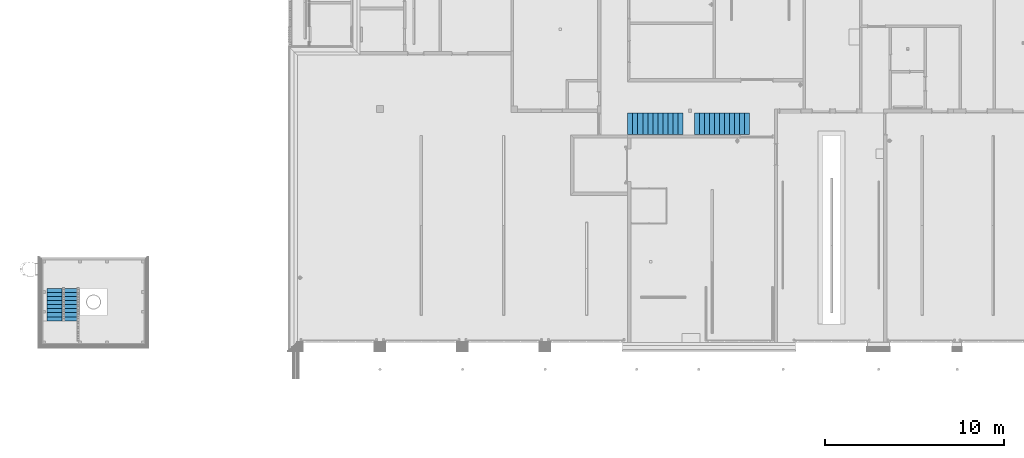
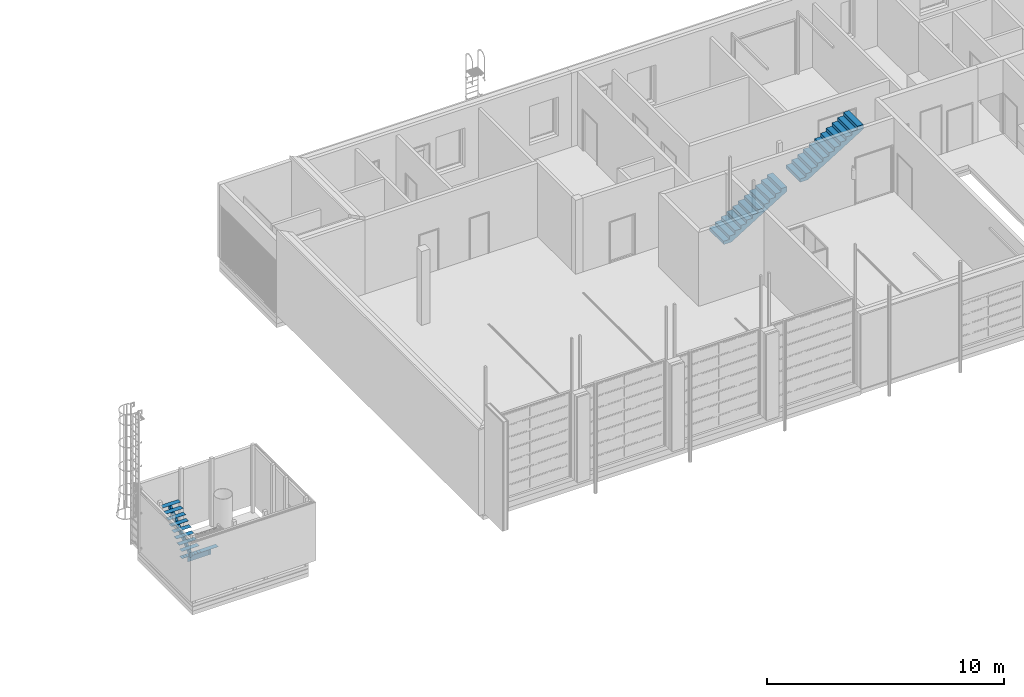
# One storey, part 36 of 112: 4 members, 4 elements without a shape of their own.
"""IFC2X3 building model written with IfcOpenShell, lengths in millimetres."""

import ifcopenshell
import ifcopenshell.guid

model = None  # the IFC model being written
_history = None  # IfcOwnerHistory: only IFC2X3 demands one
_inside = {}  # id of a spatial element -> (the spatial element, [elements in it])
_under = {}  # id of a project, library or spatial element -> (it, [spatial elements below it])
_declared = {}  # id of a project -> (the project, [libraries it declares])
_typed = {}  # id of a type object -> (the type object, [elements of that type])
_made_of = {}  # id of a material, layer set ... -> (it, [elements and type objects made of it])


def new_model(schema):
    """Start an empty IFC model of exactly this schema.

    Asked for "IFC4X3", IfcOpenShell would pick the latest addendum, in which some entities
    have other attributes; the version numbers below select the first issue.
    IFC2X3 requires an IfcOwnerHistory on every rooted entity: one is made here for all.
    """
    global model, _history
    if schema == "IFC4X3":
        model = ifcopenshell.file(schema_version=(4, 3, 0, 0))
    else:
        model = ifcopenshell.file(schema=schema)
    _inside.clear()
    _under.clear()
    _declared.clear()
    _typed.clear()
    _made_of.clear()
    _history = None
    if model.schema == "IFC2X3":
        org = make("IfcOrganization", Name="unknown")
        user = make(
            "IfcPersonAndOrganization",
            ThePerson=make("IfcPerson", FamilyName="unknown"),
            TheOrganization=org,
        )
        app = make(
            "IfcApplication",
            ApplicationDeveloper=org,
            Version="unknown",
            ApplicationFullName="unknown",
            ApplicationIdentifier="unknown",
        )
        _history = make(
            "IfcOwnerHistory",
            OwningUser=user,
            OwningApplication=app,
            ChangeAction="ADDED",
            CreationDate=0,
        )
    return model


def make(cls, **values):
    """One entity of the class cls with the attributes given. An attribute that is None is left unset."""
    return model.create_entity(
        cls, **{name: value for name, value in values.items() if value is not None}
    )


def entity(cls, *values):
    """Any entity or typed value of the class cls, its attributes in the order of the schema. None: left unset."""
    e = model.create_entity(cls)
    for i, value in enumerate(values):
        if value is not None:
            e[i] = value
    return e


def rooted(cls, **values):
    """An entity with a GlobalId (a new one), such as an element, a storey or a relation."""
    return make(cls, GlobalId=ifcopenshell.guid.new(), OwnerHistory=_history, **values)


def si_unit(unit_type, name, prefix=None):
    """IfcSIUnit, for example si_unit("LENGTHUNIT", "METRE", prefix="MILLI")."""
    return make("IfcSIUnit", UnitType=unit_type, Prefix=prefix, Name=name)


def converted_unit(unit_type, name, factor, base, dimensions=None, offset=None):
    """IfcConversionBasedUnit, such as the inch: factor (a typed value) times the base unit."""
    return make(
        "IfcConversionBasedUnit"
        if offset is None
        else "IfcConversionBasedUnitWithOffset",
        ConversionOffset=offset,
        Dimensions=None
        if dimensions is None
        else entity("IfcDimensionalExponents", *dimensions),
        UnitType=unit_type,
        Name=name,
        ConversionFactor=make(
            "IfcMeasureWithUnit", ValueComponent=factor, UnitComponent=base
        ),
    )


def derived_unit(unit_type, elements):
    """IfcDerivedUnit: a product of units, each with its exponent."""
    return make(
        "IfcDerivedUnit",
        Elements=[
            make("IfcDerivedUnitElement", Unit=unit, Exponent=power)
            for unit, power in elements
        ],
        UnitType=unit_type,
    )


def money_unit(currency):
    """IfcMonetaryUnit."""
    return make("IfcMonetaryUnit", Currency=currency)


def assignment(units):
    """IfcUnitAssignment: the units of a project."""
    return None if units is None else make("IfcUnitAssignment", Units=units)


def point(xyz):
    """IfcCartesianPoint."""
    return None if xyz is None else make("IfcCartesianPoint", Coordinates=xyz)


def direction(xyz):
    """IfcDirection."""
    return None if xyz is None else make("IfcDirection", DirectionRatios=xyz)


def frame(location, z_axis=None, x_axis=None):
    """IfcAxis2Placement3D, a coordinate frame: its origin and axes. An axis left out is left unset."""
    return make(
        "IfcAxis2Placement3D",
        Location=point(location),
        Axis=direction(z_axis),
        RefDirection=direction(x_axis),
    )


def origin_with_axes():
    """The frame at (0, 0, 0) with the z axis (0, 0, 1) and the x axis (1, 0, 0) written out."""
    return frame((0.0, 0.0, 0.0), z_axis=(0.0, 0.0, 1.0), x_axis=(1.0, 0.0, 0.0))


def place(relative_to, where):
    """IfcLocalPlacement: puts the frame where relative to a parent placement (None: the world)."""
    return make(
        "IfcLocalPlacement", PlacementRelTo=relative_to, RelativePlacement=where
    )


def context(
    kind, dimensions, precision=None, world=None, true_north=None, identifier=None
):
    """IfcGeometricRepresentationContext, for example the 3D "Model" context."""
    return make(
        "IfcGeometricRepresentationContext",
        ContextIdentifier=identifier,
        ContextType=kind,
        CoordinateSpaceDimension=dimensions,
        Precision=precision,
        WorldCoordinateSystem=world,
        TrueNorth=true_north,
    )


def subcontext(parent, identifier, kind, view, scale=None):
    """IfcGeometricRepresentationSubContext, for example "Body" below "Model"."""
    return make(
        "IfcGeometricRepresentationSubContext",
        ContextIdentifier=identifier,
        ContextType=kind,
        ParentContext=parent,
        TargetScale=scale,
        TargetView=view,
    )


def project(units=None, contexts=None):
    """IfcProject with its units and contexts."""
    return rooted(
        "IfcProject",
        Name="project",
        RepresentationContexts=contexts,
        UnitsInContext=assignment(units),
    )


def spatial(cls, under=None, at=None, **own):
    """A site, building, storey or space (cls), placed at a placement, below another one or the project."""
    s = rooted(cls, ObjectPlacement=at, **own)
    if under is not None:
        _under.setdefault(under.id(), (under, []))[1].append(s)
    return s


def faces_of(points, faces, orient=None, outer=None):
    """IfcFace entities. A face is a list of loops; a loop is a list of indices into points, from 0.

    orient and outer hold one flag for each loop. By default every Orientation is true, the
    first loop of a face is its IfcFaceOuterBound and the others are IfcFaceBound.
    """
    made = []
    for i, loops in enumerate(faces):
        bounds = []
        for j, loop in enumerate(loops):
            is_outer = j == 0 if outer is None else outer[i][j]
            bounds.append(
                make(
                    "IfcFaceOuterBound" if is_outer else "IfcFaceBound",
                    Bound=make("IfcPolyLoop", Polygon=[points[k] for k in loop]),
                    Orientation=True if orient is None else orient[i][j],
                )
            )
        made.append(make("IfcFace", Bounds=bounds))
    return made


def faceted_brep(points, faces, orient=None, outer=None, voids=None):
    """IfcFacetedBrep: a solid bounded by flat faces; with voids (closed shells), ...WithVoids."""
    shared = [point(p) for p in points]
    hull = make("IfcClosedShell", CfsFaces=faces_of(shared, faces, orient, outer))
    if voids is None:
        return make("IfcFacetedBrep", Outer=hull)
    return make(
        "IfcFacetedBrepWithVoids",
        Outer=hull,
        Voids=[
            make(cls, CfsFaces=faces_of(shared, fs, o, b)) for cls, fs, o, b in voids
        ],
    )


def shape(context_of_items, identifier, shape_type, items):
    """IfcShapeRepresentation: the items that make up one representation, for example the "Body"."""
    return make(
        "IfcShapeRepresentation",
        ContextOfItems=context_of_items,
        RepresentationIdentifier=identifier,
        RepresentationType=shape_type,
        Items=items,
    )


def material(Name=None, Category=None):
    """IfcMaterial."""
    return make("IfcMaterial", Name=Name, Category=Category)


def made_of(thing, what):
    """Note that an element or type object is made of a material, layer set ...; save() writes the relation."""
    if what is not None:
        _made_of.setdefault(what.id(), (what, []))[1].append(thing)
    return thing


def type_object(cls, material=None, **own):
    """A type object (cls), such as IfcWallType, which elements share."""
    return made_of(rooted(cls, **own), material)


def element(
    cls,
    number,
    at=None,
    inside=None,
    cuts=None,
    type_object=None,
    material=None,
    context=None,
    identifier="Body",
    shape_type=None,
    held_by="IfcProductDefinitionShape",
    body=None,
    shapes=None,
    **own,
):
    """One element of the class cls, such as IfcWall. Its Tag is "e" and its number.

    at: its placement. inside: the storey or other place that contains it. cuts: it is an
    opening in that element (IfcRelVoidsElement). A single representation is given by context,
    identifier, shape_type and body (its items); several are given by shapes. held_by: the class
    of the entity that holds the representations. save() writes the other relations.
    """
    e = rooted(cls, Tag="e%d" % number, ObjectPlacement=at, **own)
    if body is not None:
        shapes = [shape(context, identifier, shape_type, body)]
    if shapes is not None:
        e.Representation = make(held_by, Representations=shapes)
    if inside is not None:
        _inside.setdefault(inside.id(), (inside, []))[1].append(e)
    if cuts is not None:
        rooted(
            "IfcRelVoidsElement", RelatingBuildingElement=cuts, RelatedOpeningElement=e
        )
    if type_object is not None:
        _typed.setdefault(type_object.id(), (type_object, []))[1].append(e)
    return made_of(e, material)


def aggregate(whole, parts):
    """IfcRelAggregates: a whole, such as a stair, and the parts it consists of."""
    return rooted("IfcRelAggregates", RelatingObject=whole, RelatedObjects=parts)


def save(model, path):
    """Write the relations noted so far, then the file.

    IfcRelAggregates (storeys below a building ...), IfcRelContainedInSpatialStructure (elements
    in a storey), IfcRelDefinesByType, IfcRelAssociatesMaterial and IfcRelDeclares: one each for
    every whole, place, type object, material and project.
    """
    for whole, parts in _under.values():
        aggregate(whole, parts)
    for where, things in _inside.values():
        rooted(
            "IfcRelContainedInSpatialStructure",
            RelatedElements=things,
            RelatingStructure=where,
        )
    for kind, things in _typed.values():
        rooted("IfcRelDefinesByType", RelatedObjects=things, RelatingType=kind)
    for what, things in _made_of.values():
        rooted("IfcRelAssociatesMaterial", RelatedObjects=things, RelatingMaterial=what)
    for by, libraries in _declared.values():
        rooted("IfcRelDeclares", RelatingContext=by, RelatedDefinitions=libraries)
    model.write(path)


model = new_model("IFC2X3")

# Units and contexts
model_context = context("Model", 3, precision=0.01, world=origin_with_axes(), true_north=direction((0.0, 1.0)))
body_context = subcontext(model_context, "Body", "Model", "MODEL_VIEW")
ifc_project = project(units=[si_unit("LENGTHUNIT", "METRE", prefix="MILLI"), si_unit("AREAUNIT", "SQUARE_METRE"), si_unit("VOLUMEUNIT", "CUBIC_METRE"), converted_unit("PLANEANGLEUNIT", "DEGREE", entity("IfcPlaneAngleMeasure", 0.0174532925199), si_unit("PLANEANGLEUNIT", "RADIAN"), dimensions=[0, 0, 0, 0, 0, 0, 0]), si_unit("SOLIDANGLEUNIT", "STERADIAN"), money_unit("EUR"), converted_unit("TIMEUNIT", "Year", entity("IfcTimeMeasure", 31556926.0), si_unit("TIMEUNIT", "SECOND"), dimensions=[0, 0, 1, 0, 0, 0, 0]), si_unit("MASSUNIT", "GRAM", prefix="KILO"), si_unit("THERMODYNAMICTEMPERATUREUNIT", "DEGREE_CELSIUS"), si_unit("LUMINOUSINTENSITYUNIT", "LUMEN"), si_unit("ENERGYUNIT", "JOULE", prefix="MEGA"), derived_unit("THERMALCONDUCTANCEUNIT", [(si_unit("POWERUNIT", "WATT"), 1), (si_unit("LENGTHUNIT", "METRE"), -1), (si_unit("THERMODYNAMICTEMPERATUREUNIT", "KELVIN"), -1)]), derived_unit("SPECIFICHEATCAPACITYUNIT", [(si_unit("ENERGYUNIT", "JOULE"), 1), (si_unit("MASSUNIT", "GRAM", prefix="KILO"), -1), (si_unit("THERMODYNAMICTEMPERATUREUNIT", "KELVIN"), -1)]), derived_unit("MASSDENSITYUNIT", [(si_unit("MASSUNIT", "GRAM", prefix="KILO"), 1), (si_unit("VOLUMEUNIT", "CUBIC_METRE"), -1)])], contexts=[model_context])

# Site, building, storey
site_placement = place(None, origin_with_axes())
site = spatial("IfcSite", under=ifc_project, at=site_placement, Name="Politse- ja Piirivalveameti ning Päästeameti ühishoone", CompositionType="ELEMENT")
building_placement = place(site_placement, origin_with_axes())
building = spatial("IfcBuilding", under=site, at=building_placement, Name="Politse- ja Piirivalveameti ning Päästeameti ühishoone", CompositionType="ELEMENT")
storey_placement = place(building_placement, origin_with_axes())
storey = spatial("IfcBuildingStorey", under=building, at=storey_placement, Name="Esimene korrus", CompositionType="ELEMENT", Elevation=0.0)

# Stair, member
stair_1_placement = place(storey_placement, frame((18400.0260184, 11585.0198611, 0.0), z_axis=(0.0, 0.0, 1.0), x_axis=(1.0, 0.0, 0.0)))
stair_1 = element("IfcStair", 1, at=stair_1_placement, inside=storey, Name="TREPP 1", ShapeType="NOTDEFINED")
ifc_material_1 = material(Name="KON-04_Betoon - Konstuktsioon")
member_type = type_object("IfcMemberType", Name="IfcMember", PredefinedType="USERDEFINED")
member_1_placement = place(stair_1_placement, origin_with_axes())
member_1 = element("IfcMember", 2, at=member_1_placement, type_object=member_type, material=ifc_material_1, Name="TT KONSTRUKTSIOON - 002", ObjectType="Stair Structure", context=body_context, shape_type="Brep", body=[
    faceted_brep([(3080.0, 0.0, 1900.0), (3080.0, 0.0, 1665.00682734), (3080.0, 1200.0, 1665.00682734), (3080.0, 1200.0, 1900.0), (2893.33333333, 0.0, 1549.85531219), (2986.66666667, 0.0, 1607.43106977), (2800.0, 0.0, 1900.0), (2800.0, 0.0, 1727.27272727), (2520.0, 0.0, 1727.27272727), (2520.0, 0.0, 1554.54545455), (2240.0, 0.0, 1554.54545455), (2240.0, 0.0, 1381.81818182), (1960.0, 0.0, 1381.81818182), (1960.0, 0.0, 1209.09090909), (1680.0, 0.0, 1209.09090909), (1680.0, 0.0, 1036.36363636), (1400.0, 0.0, 1036.36363636), (1400.0, 0.0, 863.636363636), (1120.0, 0.0, 863.636363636), (1120.0, 0.0, 690.909090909), (840.0, 0.0, 690.909090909), (840.0, 0.0, 518.181818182), (560.0, 0.0, 518.181818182), (560.0, 0.0, 345.454545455), (280.0, 0.0, 345.454545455), (280.0, 0.0, 172.727272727), (0.0, 0.0, 172.727272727), (0.0, 0.0, 0.0), (380.93630094, 0.0, 0.0), (466.666666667, 0.0, 52.8856152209), (560.0, 0.0, 110.461372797), (653.333333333, 0.0, 168.037130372), (746.666666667, 0.0, 225.612887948), (840.0, 0.0, 283.188645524), (933.333333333, 0.0, 340.7644031), (1026.66666667, 0.0, 398.340160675), (1120.0, 0.0, 455.915918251), (1213.33333333, 0.0, 513.491675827), (1306.66666667, 0.0, 571.067433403), (1400.0, 0.0, 628.643190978), (1493.33333333, 0.0, 686.218948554), (1586.66666667, 0.0, 743.79470613), (1680.0, 0.0, 801.370463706), (1773.33333333, 0.0, 858.946221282), (1866.66666667, 0.0, 916.521978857), (1960.0, 0.0, 974.097736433), (2053.33333333, 0.0, 1031.67349401), (2146.66666667, 0.0, 1089.24925158), (2240.0, 0.0, 1146.82500916), (2333.33333333, 0.0, 1204.40076674), (2426.66666667, 0.0, 1261.97652431), (2520.0, 0.0, 1319.55228189), (2613.33333333, 0.0, 1377.12803946), (2706.66666667, 0.0, 1434.70379704), (2800.0, 0.0, 1492.27955461), (2986.66666667, 1200.0, 1607.43106977), (380.93630094, 1200.0, 0.0), (0.0, 1200.0, 0.0), (0.0, 1200.0, 172.727272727), (280.0, 1200.0, 172.727272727), (280.0, 1200.0, 345.454545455), (560.0, 1200.0, 345.454545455), (560.0, 1200.0, 518.181818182), (840.0, 1200.0, 518.181818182), (840.0, 1200.0, 690.909090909), (1120.0, 1200.0, 690.909090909), (1120.0, 1200.0, 863.636363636), (1400.0, 1200.0, 863.636363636), (1400.0, 1200.0, 1036.36363636), (1680.0, 1200.0, 1036.36363636), (1680.0, 1200.0, 1209.09090909), (1960.0, 1200.0, 1209.09090909), (1960.0, 1200.0, 1381.81818182), (2240.0, 1200.0, 1381.81818182), (2240.0, 1200.0, 1554.54545455), (2520.0, 1200.0, 1554.54545455), (2520.0, 1200.0, 1727.27272727), (2800.0, 1200.0, 1727.27272727), (2800.0, 1200.0, 1900.0), (2893.33333333, 1200.0, 1549.85531219), (2800.0, 1200.0, 1492.27955461), (2706.66666667, 1200.0, 1434.70379704), (2613.33333333, 1200.0, 1377.12803946), (2520.0, 1200.0, 1319.55228189), (2426.66666667, 1200.0, 1261.97652431), (2333.33333333, 1200.0, 1204.40076674), (2240.0, 1200.0, 1146.82500916), (2146.66666667, 1200.0, 1089.24925158), (2053.33333333, 1200.0, 1031.67349401), (1960.0, 1200.0, 974.097736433), (1866.66666667, 1200.0, 916.521978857), (1773.33333333, 1200.0, 858.946221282), (1680.0, 1200.0, 801.370463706), (1586.66666667, 1200.0, 743.79470613), (1493.33333333, 1200.0, 686.218948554), (1400.0, 1200.0, 628.643190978), (1306.66666667, 1200.0, 571.067433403), (1213.33333333, 1200.0, 513.491675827), (1120.0, 1200.0, 455.915918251), (1026.66666667, 1200.0, 398.340160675), (933.333333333, 1200.0, 340.7644031), (840.0, 1200.0, 283.188645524), (746.666666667, 1200.0, 225.612887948), (653.333333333, 1200.0, 168.037130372), (560.0, 1200.0, 110.461372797), (466.666666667, 1200.0, 52.8856152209)], [[[0, 1, 2, 3]], [[4, 5, 1, 0, 6, 7, 8, 9, 10, 11, 12, 13, 14, 15, 16, 17, 18, 19, 20, 21, 22, 23, 24, 25, 26, 27, 28, 29, 30, 31, 32, 33, 34, 35, 36, 37, 38, 39, 40, 41, 42, 43, 44, 45, 46, 47, 48, 49, 50, 51, 52, 53, 54]], [[55, 2, 1, 5]], [[56, 57, 58, 59, 60, 61, 62, 63, 64, 65, 66, 67, 68, 69, 70, 71, 72, 73, 74, 75, 76, 77, 78, 3, 2, 55, 79, 80, 81, 82, 83, 84, 85, 86, 87, 88, 89, 90, 91, 92, 93, 94, 95, 96, 97, 98, 99, 100, 101, 102, 103, 104, 105]], [[6, 0, 3, 78]], [[4, 79, 55, 5]], [[6, 78, 77, 7]], [[76, 8, 7, 77]], [[8, 76, 75, 9]], [[74, 10, 9, 75]], [[10, 74, 73, 11]], [[72, 12, 11, 73]], [[12, 72, 71, 13]], [[70, 14, 13, 71]], [[14, 70, 69, 15]], [[68, 16, 15, 69]], [[16, 68, 67, 17]], [[66, 18, 17, 67]], [[18, 66, 65, 19]], [[64, 20, 19, 65]], [[20, 64, 63, 21]], [[62, 22, 21, 63]], [[22, 62, 61, 23]], [[60, 24, 23, 61]], [[24, 60, 59, 25]], [[58, 26, 25, 59]], [[57, 27, 26, 58]], [[27, 57, 56, 28]], [[28, 56, 105, 29]], [[29, 105, 104, 30]], [[30, 104, 103, 31]], [[31, 103, 102, 32]], [[32, 102, 101, 33]], [[33, 101, 100, 34]], [[34, 100, 99, 35]], [[35, 99, 98, 36]], [[36, 98, 97, 37]], [[37, 97, 96, 38]], [[38, 96, 95, 39]], [[39, 95, 94, 40]], [[40, 94, 93, 41]], [[41, 93, 92, 42]], [[42, 92, 91, 43]], [[43, 91, 90, 44]], [[44, 90, 89, 45]], [[45, 89, 88, 46]], [[46, 88, 87, 47]], [[47, 87, 86, 48]], [[48, 86, 85, 49]], [[49, 85, 84, 50]], [[50, 84, 83, 51]], [[51, 83, 82, 52]], [[52, 82, 81, 53]], [[53, 81, 80, 54]], [[54, 80, 79, 4]]]),
])
aggregate(stair_1, [member_1])

stair_2_placement = place(storey_placement, frame((22400.0260184, 11585.0198611, 1900.0), z_axis=(0.0, 0.0, 1.0), x_axis=(1.0, 0.0, 0.0)))
stair_2 = element("IfcStair", 3, at=stair_2_placement, inside=storey, Name="TREPP 1", ShapeType="NOTDEFINED")
member_2_placement = place(stair_2_placement, origin_with_axes())
member_2 = element("IfcMember", 4, at=member_2_placement, type_object=member_type, material=ifc_material_1, Name="TT KONSTRUKTSIOON - 002", ObjectType="Stair Structure", context=body_context, shape_type="Brep", body=[
    faceted_brep([(2800.0, 0.0, 1900.0), (2800.0, 0.0, 1665.00682734), (2800.0, 1200.0, 1665.00682734), (2800.0, 1200.0, 1900.0), (2613.33333333, 0.0, 1549.85531219), (2706.66666667, 0.0, 1607.43106977), (2520.0, 0.0, 1900.0), (2520.0, 0.0, 1727.27272727), (2240.0, 0.0, 1727.27272727), (2240.0, 0.0, 1554.54545455), (1960.0, 0.0, 1554.54545455), (1960.0, 0.0, 1381.81818182), (1680.0, 0.0, 1381.81818182), (1680.0, 0.0, 1209.09090909), (1400.0, 0.0, 1209.09090909), (1400.0, 0.0, 1036.36363636), (1120.0, 0.0, 1036.36363636), (1120.0, 0.0, 863.636363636), (840.0, 0.0, 863.636363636), (840.0, 0.0, 690.909090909), (560.0, 0.0, 690.909090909), (560.0, 0.0, 518.181818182), (280.0, 0.0, 518.181818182), (280.0, 0.0, 345.454545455), (0.0, 0.0, 345.454545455), (0.0, 0.0, 172.727272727), (-280.0, 0.0, 172.727272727), (-280.0, 0.0, 0.0), (100.93630094, 0.0, 0.0), (186.666666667, 0.0, 52.8856152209), (280.0, 0.0, 110.461372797), (373.333333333, 0.0, 168.037130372), (466.666666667, 0.0, 225.612887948), (560.0, 0.0, 283.188645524), (653.333333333, 0.0, 340.7644031), (746.666666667, 0.0, 398.340160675), (840.0, 0.0, 455.915918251), (933.333333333, 0.0, 513.491675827), (1026.66666667, 0.0, 571.067433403), (1120.0, 0.0, 628.643190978), (1213.33333333, 0.0, 686.218948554), (1306.66666667, 0.0, 743.79470613), (1400.0, 0.0, 801.370463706), (1493.33333333, 0.0, 858.946221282), (1586.66666667, 0.0, 916.521978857), (1680.0, 0.0, 974.097736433), (1773.33333333, 0.0, 1031.67349401), (1866.66666667, 0.0, 1089.24925158), (1960.0, 0.0, 1146.82500916), (2053.33333333, 0.0, 1204.40076674), (2146.66666667, 0.0, 1261.97652431), (2240.0, 0.0, 1319.55228189), (2333.33333333, 0.0, 1377.12803946), (2426.66666667, 0.0, 1434.70379704), (2520.0, 0.0, 1492.27955461), (2706.66666667, 1200.0, 1607.43106977), (100.93630094, 1200.0, 0.0), (-280.0, 1200.0, 0.0), (-280.0, 1200.0, 172.727272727), (0.0, 1200.0, 172.727272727), (0.0, 1200.0, 345.454545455), (280.0, 1200.0, 345.454545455), (280.0, 1200.0, 518.181818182), (560.0, 1200.0, 518.181818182), (560.0, 1200.0, 690.909090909), (840.0, 1200.0, 690.909090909), (840.0, 1200.0, 863.636363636), (1120.0, 1200.0, 863.636363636), (1120.0, 1200.0, 1036.36363636), (1400.0, 1200.0, 1036.36363636), (1400.0, 1200.0, 1209.09090909), (1680.0, 1200.0, 1209.09090909), (1680.0, 1200.0, 1381.81818182), (1960.0, 1200.0, 1381.81818182), (1960.0, 1200.0, 1554.54545455), (2240.0, 1200.0, 1554.54545455), (2240.0, 1200.0, 1727.27272727), (2520.0, 1200.0, 1727.27272727), (2520.0, 1200.0, 1900.0), (2613.33333333, 1200.0, 1549.85531219), (2520.0, 1200.0, 1492.27955461), (2426.66666667, 1200.0, 1434.70379704), (2333.33333333, 1200.0, 1377.12803946), (2240.0, 1200.0, 1319.55228189), (2146.66666667, 1200.0, 1261.97652431), (2053.33333333, 1200.0, 1204.40076674), (1960.0, 1200.0, 1146.82500916), (1866.66666667, 1200.0, 1089.24925158), (1773.33333333, 1200.0, 1031.67349401), (1680.0, 1200.0, 974.097736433), (1586.66666667, 1200.0, 916.521978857), (1493.33333333, 1200.0, 858.946221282), (1400.0, 1200.0, 801.370463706), (1306.66666667, 1200.0, 743.79470613), (1213.33333333, 1200.0, 686.218948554), (1120.0, 1200.0, 628.643190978), (1026.66666667, 1200.0, 571.067433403), (933.333333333, 1200.0, 513.491675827), (840.0, 1200.0, 455.915918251), (746.666666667, 1200.0, 398.340160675), (653.333333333, 1200.0, 340.7644031), (560.0, 1200.0, 283.188645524), (466.666666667, 1200.0, 225.612887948), (373.333333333, 1200.0, 168.037130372), (280.0, 1200.0, 110.461372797), (186.666666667, 1200.0, 52.8856152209)], [[[0, 1, 2, 3]], [[4, 5, 1, 0, 6, 7, 8, 9, 10, 11, 12, 13, 14, 15, 16, 17, 18, 19, 20, 21, 22, 23, 24, 25, 26, 27, 28, 29, 30, 31, 32, 33, 34, 35, 36, 37, 38, 39, 40, 41, 42, 43, 44, 45, 46, 47, 48, 49, 50, 51, 52, 53, 54]], [[55, 2, 1, 5]], [[56, 57, 58, 59, 60, 61, 62, 63, 64, 65, 66, 67, 68, 69, 70, 71, 72, 73, 74, 75, 76, 77, 78, 3, 2, 55, 79, 80, 81, 82, 83, 84, 85, 86, 87, 88, 89, 90, 91, 92, 93, 94, 95, 96, 97, 98, 99, 100, 101, 102, 103, 104, 105]], [[6, 0, 3, 78]], [[4, 79, 55, 5]], [[6, 78, 77, 7]], [[76, 8, 7, 77]], [[8, 76, 75, 9]], [[74, 10, 9, 75]], [[10, 74, 73, 11]], [[72, 12, 11, 73]], [[12, 72, 71, 13]], [[70, 14, 13, 71]], [[14, 70, 69, 15]], [[68, 16, 15, 69]], [[16, 68, 67, 17]], [[66, 18, 17, 67]], [[18, 66, 65, 19]], [[64, 20, 19, 65]], [[20, 64, 63, 21]], [[62, 22, 21, 63]], [[22, 62, 61, 23]], [[60, 24, 23, 61]], [[24, 60, 59, 25]], [[58, 26, 25, 59]], [[57, 27, 26, 58]], [[27, 57, 56, 28]], [[28, 56, 105, 29]], [[29, 105, 104, 30]], [[30, 104, 103, 31]], [[31, 103, 102, 32]], [[32, 102, 101, 33]], [[33, 101, 100, 34]], [[34, 100, 99, 35]], [[35, 99, 98, 36]], [[36, 98, 97, 37]], [[37, 97, 96, 38]], [[38, 96, 95, 39]], [[39, 95, 94, 40]], [[40, 94, 93, 41]], [[41, 93, 92, 42]], [[42, 92, 91, 43]], [[43, 91, 90, 44]], [[44, 90, 89, 45]], [[45, 89, 88, 46]], [[46, 88, 87, 47]], [[47, 87, 86, 48]], [[48, 86, 85, 49]], [[49, 85, 84, 50]], [[50, 84, 83, 51]], [[51, 83, 82, 52]], [[52, 82, 81, 53]], [[53, 81, 80, 54]], [[54, 80, 79, 4]]]),
])
aggregate(stair_2, [member_2])

stair_3_placement = place(storey_placement, frame((-13032.0653854, 2194.33466047, 0.0), z_axis=(0.0, 0.0, 1.0), x_axis=(0.0, -1.0, 0.0)))
stair_3 = element("IfcStair", 5, at=stair_3_placement, inside=storey, Name="TREPP 2", ShapeType="NOTDEFINED")
ifc_material_2 = material(Name="ET-06_Teras - Konstruktsioon")
member_3_placement = place(stair_3_placement, origin_with_axes())
member_3 = element("IfcMember", 6, at=member_3_placement, type_object=member_type, material=ifc_material_2, Name="TT KONSTRUKTSIOON - 002", ObjectType="Stair Structure", context=body_context, shape_type="Brep", body=[
    faceted_brep([(-806.322199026, 375.0, -257.677132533), (999.104984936, 375.0, 1208.98953352), (999.104984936, 375.0, 1466.66666667), (-806.322199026, 375.0, 0.0), (-806.322199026, 475.0, -257.677132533), (999.104984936, 475.0, 1208.98953352), (999.104984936, 475.0, 1466.66666667), (-806.322199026, 475.0, 0.0)], [[[0, 1, 2, 3]], [[4, 5, 1, 0]], [[5, 6, 2, 1]], [[3, 2, 6, 7]], [[0, 3, 7, 4]], [[7, 6, 5, 4]]]),
    faceted_brep([(-592.953535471, 400.0, 173.333333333), (-580.643804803, 400.0, 183.333333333), (-780.643801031, 400.0, 183.333333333), (-701.130257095, 400.0, 85.4543012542), (-693.368606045, 400.0, 91.7595984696), (-759.636289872, 400.0, 173.333333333), (-580.643804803, 450.0, 183.333333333), (-592.953535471, 450.0, 173.333333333), (-780.643801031, 450.0, 183.333333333), (-701.130257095, 450.0, 85.4543012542), (-693.368606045, 450.0, 91.7595984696), (-759.636289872, 450.0, 173.333333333)], [[[0, 1, 2, 3, 4, 5]], [[6, 1, 0, 7]], [[1, 6, 8, 2]], [[9, 3, 2, 8]], [[10, 4, 3, 9]], [[4, 10, 11, 5]], [[7, 0, 5, 11]], [[6, 7, 11, 10, 9, 8]]]),
    faceted_brep([(-367.275139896, 400.0, 356.666666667), (-354.965409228, 400.0, 366.666666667), (-554.965403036, 400.0, 366.666666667), (-475.451860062, 400.0, 268.787635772), (-467.690209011, 400.0, 275.092932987), (-533.957891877, 400.0, 356.666666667), (-354.965409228, 450.0, 366.666666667), (-367.275139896, 450.0, 356.666666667), (-554.965403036, 450.0, 366.666666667), (-475.451860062, 450.0, 268.787635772), (-467.690209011, 450.0, 275.092932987), (-533.957891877, 450.0, 356.666666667)], [[[0, 1, 2, 3, 4, 5]], [[6, 1, 0, 7]], [[1, 6, 8, 2]], [[9, 3, 2, 8]], [[10, 4, 3, 9]], [[4, 10, 11, 5]], [[7, 0, 5, 11]], [[6, 7, 11, 10, 9, 8]]]),
    faceted_brep([(-141.596744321, 400.0, 540.0), (-129.287013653, 400.0, 550.0), (-329.287005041, 400.0, 550.0), (-249.773463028, 400.0, 452.12097029), (-242.011811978, 400.0, 458.426267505), (-308.279493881, 400.0, 540.0), (-129.287013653, 450.0, 550.0), (-141.596744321, 450.0, 540.0), (-329.287005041, 450.0, 550.0), (-249.773463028, 450.0, 452.12097029), (-242.011811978, 450.0, 458.426267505), (-308.279493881, 450.0, 540.0)], [[[0, 1, 2, 3, 4, 5]], [[6, 1, 0, 7]], [[1, 6, 8, 2]], [[9, 3, 2, 8]], [[10, 4, 3, 9]], [[4, 10, 11, 5]], [[7, 0, 5, 11]], [[6, 7, 11, 10, 9, 8]]]),
    faceted_brep([(84.0816512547, 400.0, 723.333333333), (96.3913819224, 400.0, 733.333333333), (-103.608607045, 400.0, 733.333333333), (-24.0950659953, 400.0, 635.454304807), (-16.3334149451, 400.0, 641.759602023), (-82.6010958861, 400.0, 723.333333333), (96.3913819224, 450.0, 733.333333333), (84.0816512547, 450.0, 723.333333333), (-103.608607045, 450.0, 733.333333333), (-24.0950659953, 450.0, 635.454304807), (-16.3334149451, 450.0, 641.759602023), (-82.6010958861, 450.0, 723.333333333)], [[[0, 1, 2, 3, 4, 5]], [[6, 1, 0, 7]], [[1, 6, 8, 2]], [[9, 3, 2, 8]], [[10, 4, 3, 9]], [[4, 10, 11, 5]], [[7, 0, 5, 11]], [[6, 7, 11, 10, 9, 8]]]),
    faceted_brep([(309.76004683, 400.0, 906.666666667), (322.069777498, 400.0, 916.666666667), (122.06979095, 400.0, 916.666666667), (201.583331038, 400.0, 818.787639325), (209.344982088, 400.0, 825.09293654), (143.077302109, 400.0, 906.666666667), (322.069777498, 450.0, 916.666666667), (309.76004683, 450.0, 906.666666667), (122.06979095, 450.0, 916.666666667), (201.583331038, 450.0, 818.787639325), (209.344982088, 450.0, 825.09293654), (143.077302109, 450.0, 906.666666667)], [[[0, 1, 2, 3, 4, 5]], [[6, 1, 0, 7]], [[1, 6, 8, 2]], [[9, 3, 2, 8]], [[10, 4, 3, 9]], [[4, 10, 11, 5]], [[7, 0, 5, 11]], [[6, 7, 11, 10, 9, 8]]]),
    faceted_brep([(535.438442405, 400.0, 1090.0), (547.748173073, 400.0, 1100.0), (347.748188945, 400.0, 1100.0), (427.261728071, 400.0, 1002.12097384), (435.023379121, 400.0, 1008.42627106), (368.755700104, 400.0, 1090.0), (547.748173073, 450.0, 1100.0), (535.438442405, 450.0, 1090.0), (347.748188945, 450.0, 1100.0), (427.261728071, 450.0, 1002.12097384), (435.023379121, 450.0, 1008.42627106), (368.755700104, 450.0, 1090.0)], [[[0, 1, 2, 3, 4, 5]], [[6, 1, 0, 7]], [[1, 6, 8, 2]], [[9, 3, 2, 8]], [[10, 4, 3, 9]], [[4, 10, 11, 5]], [[7, 0, 5, 11]], [[6, 7, 11, 10, 9, 8]]]),
    faceted_brep([(761.116837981, 400.0, 1273.33333333), (773.426568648, 400.0, 1283.33333333), (573.42658694, 400.0, 1283.33333333), (652.940125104, 400.0, 1185.45430836), (660.701776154, 400.0, 1191.75960558), (594.4340981, 400.0, 1273.33333333), (773.426568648, 450.0, 1283.33333333), (761.116837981, 450.0, 1273.33333333), (573.42658694, 450.0, 1283.33333333), (652.940125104, 450.0, 1185.45430836), (660.701776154, 450.0, 1191.75960558), (594.4340981, 450.0, 1273.33333333)], [[[0, 1, 2, 3, 4, 5]], [[6, 1, 0, 7]], [[1, 6, 8, 2]], [[9, 3, 2, 8]], [[10, 4, 3, 9]], [[4, 10, 11, 5]], [[7, 0, 5, 11]], [[6, 7, 11, 10, 9, 8]]]),
    faceted_brep([(986.795233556, 400.0, 1456.66666667), (999.104976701, 400.0, 1466.6666768), (799.104984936, 400.0, 1466.66666667), (878.618522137, 400.0, 1368.78764288), (886.380173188, 400.0, 1375.09294009), (820.112496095, 400.0, 1456.66666667), (999.104976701, 450.0, 1466.6666768), (986.795233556, 450.0, 1456.66666667), (799.104984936, 450.0, 1466.66666667), (878.618522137, 450.0, 1368.78764288), (886.380173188, 450.0, 1375.09294009), (820.112496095, 450.0, 1456.66666667)], [[[0, 1, 2, 3, 4, 5]], [[6, 1, 0, 7]], [[1, 6, 8, 2]], [[9, 3, 2, 8]], [[10, 4, 3, 9]], [[4, 10, 11, 5]], [[7, 0, 5, 11]], [[6, 7, 11, 10, 9, 8]]]),
    faceted_brep([(-806.322199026, 849.737149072, 183.333333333), (-806.322199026, 0.0, 183.333333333), (-806.322199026, 0.0, 188.333333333), (-806.322199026, 849.737149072, 188.333333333), (-580.643801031, 849.737149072, 183.333333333), (-580.643801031, 0.0, 183.333333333), (-580.643801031, 0.0, 188.333333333), (-580.643801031, 849.737149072, 188.333333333)], [[[0, 1, 2, 3]], [[0, 4, 5, 1]], [[1, 5, 6, 2]], [[3, 2, 6, 7]], [[4, 0, 3, 7]], [[5, 4, 7, 6]]]),
    faceted_brep([(-580.643801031, 849.737149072, 366.666666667), (-580.643801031, 0.0, 366.666666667), (-580.643801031, 0.0, 371.666666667), (-580.643801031, 849.737149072, 371.666666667), (-354.965403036, 849.737149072, 366.666666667), (-354.965403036, 0.0, 366.666666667), (-354.965403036, 0.0, 371.666666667), (-354.965403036, 849.737149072, 371.666666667)], [[[0, 1, 2, 3]], [[0, 4, 5, 1]], [[1, 5, 6, 2]], [[3, 2, 6, 7]], [[4, 0, 3, 7]], [[5, 4, 7, 6]]]),
    faceted_brep([(-354.965403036, 849.737149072, 550.0), (-354.965403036, 0.0, 550.0), (-354.965403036, 0.0, 555.0), (-354.965403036, 849.737149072, 555.0), (-129.287005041, 849.737149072, 550.0), (-129.287005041, 0.0, 550.0), (-129.287005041, 0.0, 555.0), (-129.287005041, 849.737149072, 555.0)], [[[0, 1, 2, 3]], [[0, 4, 5, 1]], [[1, 5, 6, 2]], [[3, 2, 6, 7]], [[4, 0, 3, 7]], [[5, 4, 7, 6]]]),
    faceted_brep([(-129.287005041, 849.737149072, 733.333333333), (-129.287005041, 0.0, 733.333333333), (-129.287005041, 0.0, 738.333333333), (-129.287005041, 849.737149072, 738.333333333), (96.3913929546, 849.737149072, 733.333333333), (96.3913929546, 0.0, 733.333333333), (96.3913929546, 0.0, 738.333333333), (96.3913929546, 849.737149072, 738.333333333)], [[[0, 1, 2, 3]], [[0, 4, 5, 1]], [[1, 5, 6, 2]], [[3, 2, 6, 7]], [[4, 0, 3, 7]], [[5, 4, 7, 6]]]),
    faceted_brep([(96.3913929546, 849.737149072, 916.666666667), (96.3913929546, 0.0, 916.666666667), (96.3913929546, 0.0, 921.666666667), (96.3913929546, 849.737149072, 921.666666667), (322.06979095, 849.737149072, 916.666666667), (322.06979095, 0.0, 916.666666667), (322.06979095, 0.0, 921.666666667), (322.06979095, 849.737149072, 921.666666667)], [[[0, 1, 2, 3]], [[0, 4, 5, 1]], [[1, 5, 6, 2]], [[3, 2, 6, 7]], [[4, 0, 3, 7]], [[5, 4, 7, 6]]]),
    faceted_brep([(322.06979095, 849.737149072, 1100.0), (322.06979095, 0.0, 1100.0), (322.06979095, 0.0, 1105.0), (322.06979095, 849.737149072, 1105.0), (547.748188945, 849.737149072, 1100.0), (547.748188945, 0.0, 1100.0), (547.748188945, 0.0, 1105.0), (547.748188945, 849.737149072, 1105.0)], [[[0, 1, 2, 3]], [[0, 4, 5, 1]], [[1, 5, 6, 2]], [[3, 2, 6, 7]], [[4, 0, 3, 7]], [[5, 4, 7, 6]]]),
    faceted_brep([(547.748188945, 849.737149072, 1283.33333333), (547.748188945, 0.0, 1283.33333333), (547.748188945, 0.0, 1288.33333333), (547.748188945, 849.737149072, 1288.33333333), (773.42658694, 849.737149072, 1283.33333333), (773.42658694, 0.0, 1283.33333333), (773.42658694, 0.0, 1288.33333333), (773.42658694, 849.737149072, 1288.33333333)], [[[0, 1, 2, 3]], [[0, 4, 5, 1]], [[1, 5, 6, 2]], [[3, 2, 6, 7]], [[4, 0, 3, 7]], [[5, 4, 7, 6]]]),
    faceted_brep([(773.42658694, 849.737149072, 1466.66666667), (773.42658694, 0.0, 1466.66666667), (773.42658694, 0.0, 1471.66666667), (773.42658694, 849.737149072, 1471.66666667), (999.104984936, 849.737149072, 1466.66666667), (999.104984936, 0.0, 1466.66666667), (999.104984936, 0.0, 1471.66666667), (999.104984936, 849.737149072, 1471.66666667)], [[[0, 1, 2, 3]], [[0, 4, 5, 1]], [[1, 5, 6, 2]], [[3, 2, 6, 7]], [[4, 0, 3, 7]], [[5, 4, 7, 6]]]),
])
aggregate(stair_3, [member_3])

stair_4_placement = place(storey_placement, frame((-13957.0653854, 2005.82219903, 1650.0), z_axis=(0.0, 0.0, 1.0), x_axis=(0.0, 1.0, 0.0)))
stair_4 = element("IfcStair", 7, at=stair_4_placement, inside=storey, Name="TREPP 2", ShapeType="NOTDEFINED")
member_4_placement = place(stair_4_placement, origin_with_axes())
member_4 = element("IfcMember", 8, at=member_4_placement, type_object=member_type, material=ifc_material_2, Name="TT KONSTRUKTSIOON - 002", ObjectType="Stair Structure", context=body_context, shape_type="Brep", body=[
    faceted_brep([(-810.592523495, -375.0, -257.435566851), (-810.592523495, -375.0, 0.0), (999.104984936, -375.0, 1466.66666667), (999.104984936, -375.0, 1209.23109793), (-810.592523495, -475.0, -257.435566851), (-810.592523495, -475.0, 0.0), (999.104984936, -475.0, 1466.66666667), (999.104984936, -475.0, 1209.23109793)], [[[0, 1, 2, 3]], [[0, 4, 5, 1]], [[1, 5, 6, 2]], [[7, 3, 2, 6]], [[4, 0, 3, 7]], [[5, 4, 7, 6]]]),
    faceted_brep([(-596.719192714, -400.0, 173.333333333), (-763.404071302, -400.0, 173.333333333), (-697.324081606, -400.0, 91.7982473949), (-705.093015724, -400.0, 85.5019260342), (-784.380334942, -400.0, 183.333333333), (-584.380346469, -400.0, 183.333333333), (-596.719192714, -450.0, 173.333333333), (-763.404071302, -450.0, 173.333333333), (-697.324081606, -450.0, 91.7982473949), (-705.093015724, -450.0, 85.5019260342), (-784.380334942, -450.0, 183.333333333), (-584.380346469, -450.0, 183.333333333)], [[[0, 1, 2, 3, 4, 5]], [[6, 7, 1, 0]], [[2, 1, 7, 8]], [[8, 9, 3, 2]], [[9, 10, 4, 3]], [[5, 4, 10, 11]], [[11, 6, 0, 5]], [[11, 10, 9, 8, 7, 6]]]),
    faceted_brep([(-370.507011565, -400.0, 356.666666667), (-537.191882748, -400.0, 356.666666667), (-471.111895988, -400.0, 275.131584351), (-478.880830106, -400.0, 268.83526299), (-558.168146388, -400.0, 366.666666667), (-358.168165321, -400.0, 366.666666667), (-370.507011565, -450.0, 356.666666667), (-537.191882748, -450.0, 356.666666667), (-471.111895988, -450.0, 275.131584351), (-478.880830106, -450.0, 268.83526299), (-558.168146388, -450.0, 366.666666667), (-358.168165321, -450.0, 366.666666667)], [[[0, 1, 2, 3, 4, 5]], [[6, 7, 1, 0]], [[2, 1, 7, 8]], [[8, 9, 3, 2]], [[9, 10, 4, 3]], [[5, 4, 10, 11]], [[11, 6, 0, 5]], [[11, 10, 9, 8, 7, 6]]]),
    faceted_brep([(-144.294830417, -400.0, 540.0), (-310.979694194, -400.0, 540.0), (-244.89971037, -400.0, 458.464921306), (-252.668644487, -400.0, 452.168599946), (-331.955957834, -400.0, 550.0), (-131.955984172, -400.0, 550.0), (-144.294830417, -450.0, 540.0), (-310.979694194, -450.0, 540.0), (-244.89971037, -450.0, 458.464921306), (-252.668644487, -450.0, 452.168599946), (-331.955957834, -450.0, 550.0), (-131.955984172, -450.0, 550.0)], [[[0, 1, 2, 3, 4, 5]], [[6, 7, 1, 0]], [[2, 1, 7, 8]], [[8, 9, 3, 2]], [[9, 10, 4, 3]], [[5, 4, 10, 11]], [[11, 6, 0, 5]], [[11, 10, 9, 8, 7, 6]]]),
    faceted_brep([(81.9173507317, -400.0, 723.333333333), (-84.7675056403, -400.0, 723.333333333), (-18.6875247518, -400.0, 641.798258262), (-26.4564588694, -400.0, 635.501936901), (-105.74376928, -400.0, 733.333333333), (94.2561969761, -400.0, 733.333333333), (81.9173507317, -450.0, 723.333333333), (-84.7675056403, -450.0, 723.333333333), (-18.6875247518, -450.0, 641.798258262), (-26.4564588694, -450.0, 635.501936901), (-105.74376928, -450.0, 733.333333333), (94.2561969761, -450.0, 733.333333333)], [[[0, 1, 2, 3, 4, 5]], [[6, 7, 1, 0]], [[2, 1, 7, 8]], [[8, 9, 3, 2]], [[9, 10, 4, 3]], [[5, 4, 10, 11]], [[11, 6, 0, 5]], [[11, 10, 9, 8, 7, 6]]]),
    faceted_brep([(308.12953188, -400.0, 906.666666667), (141.444682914, -400.0, 906.666666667), (207.524660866, -400.0, 825.131595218), (199.755726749, -400.0, 818.835273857), (120.468419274, -400.0, 916.666666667), (320.468378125, -400.0, 916.666666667), (308.12953188, -450.0, 906.666666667), (141.444682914, -450.0, 906.666666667), (207.524660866, -450.0, 825.131595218), (199.755726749, -450.0, 818.835273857), (120.468419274, -450.0, 916.666666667), (320.468378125, -450.0, 916.666666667)], [[[0, 1, 2, 3, 4, 5]], [[6, 7, 1, 0]], [[2, 1, 7, 8]], [[8, 9, 3, 2]], [[9, 10, 4, 3]], [[5, 4, 10, 11]], [[11, 6, 0, 5]], [[11, 10, 9, 8, 7, 6]]]),
    faceted_brep([(534.341713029, -400.0, 1090.0), (367.656871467, -400.0, 1090.0), (433.736846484, -400.0, 1008.46493217), (425.967912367, -400.0, 1002.16861081), (346.680607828, -400.0, 1100.0), (546.680559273, -400.0, 1100.0), (534.341713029, -450.0, 1090.0), (367.656871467, -450.0, 1090.0), (433.736846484, -450.0, 1008.46493217), (425.967912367, -450.0, 1002.16861081), (346.680607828, -450.0, 1100.0), (546.680559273, -450.0, 1100.0)], [[[0, 1, 2, 3, 4, 5]], [[6, 7, 1, 0]], [[2, 1, 7, 8]], [[8, 9, 3, 2]], [[9, 10, 4, 3]], [[5, 4, 10, 11]], [[11, 6, 0, 5]], [[11, 10, 9, 8, 7, 6]]]),
    faceted_brep([(760.553894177, -400.0, 1273.33333333), (593.869060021, -400.0, 1273.33333333), (659.949032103, -400.0, 1191.79826913), (652.180097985, -400.0, 1185.50194777), (572.892796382, -400.0, 1283.33333333), (772.892740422, -400.0, 1283.33333333), (760.553894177, -450.0, 1273.33333333), (593.869060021, -450.0, 1273.33333333), (659.949032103, -450.0, 1191.79826913), (652.180097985, -450.0, 1185.50194777), (572.892796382, -450.0, 1283.33333333), (772.892740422, -450.0, 1283.33333333)], [[[0, 1, 2, 3, 4, 5]], [[6, 7, 1, 0]], [[2, 1, 7, 8]], [[8, 9, 3, 2]], [[9, 10, 4, 3]], [[5, 4, 10, 11]], [[11, 6, 0, 5]], [[11, 10, 9, 8, 7, 6]]]),
    faceted_brep([(986.766075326, -400.0, 1456.66666667), (820.081248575, -400.0, 1456.66666667), (886.161217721, -400.0, 1375.13160609), (878.392283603, -400.0, 1368.83528472), (799.104984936, -400.0, 1466.66666667), (999.104959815, -400.0, 1466.66669766), (986.766075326, -450.0, 1456.66666667), (820.081248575, -450.0, 1456.66666667), (886.161217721, -450.0, 1375.13160609), (878.392283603, -450.0, 1368.83528472), (799.104984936, -450.0, 1466.66666667), (999.104959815, -450.0, 1466.66669766)], [[[0, 1, 2, 3, 4, 5]], [[6, 7, 1, 0]], [[2, 1, 7, 8]], [[8, 9, 3, 2]], [[9, 10, 4, 3]], [[5, 4, 10, 11]], [[11, 6, 0, 5]], [[11, 10, 9, 8, 7, 6]]]),
    faceted_brep([(-810.592523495, -849.859183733, 183.333333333), (-810.592523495, -849.859183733, 188.333333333), (-810.592523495, 0.0, 188.333333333), (-810.592523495, 0.0, 183.333333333), (-584.380334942, -849.859183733, 183.333333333), (-584.380334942, -849.859183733, 188.333333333), (-584.380334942, 0.0, 188.333333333), (-584.380334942, 0.0, 183.333333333)], [[[0, 1, 2, 3]], [[4, 5, 1, 0]], [[1, 5, 6, 2]], [[3, 2, 6, 7]], [[0, 3, 7, 4]], [[7, 6, 5, 4]]]),
    faceted_brep([(-584.380334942, -849.859183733, 366.666666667), (-584.380334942, -849.859183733, 371.666666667), (-584.380334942, 0.0, 371.666666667), (-584.380334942, 0.0, 366.666666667), (-358.168146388, -849.859183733, 366.666666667), (-358.168146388, -849.859183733, 371.666666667), (-358.168146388, 0.0, 371.666666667), (-358.168146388, 0.0, 366.666666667)], [[[0, 1, 2, 3]], [[4, 5, 1, 0]], [[1, 5, 6, 2]], [[3, 2, 6, 7]], [[0, 3, 7, 4]], [[7, 6, 5, 4]]]),
    faceted_brep([(-358.168146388, -849.859183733, 550.0), (-358.168146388, -849.859183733, 555.0), (-358.168146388, 0.0, 555.0), (-358.168146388, 0.0, 550.0), (-131.955957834, -849.859183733, 550.0), (-131.955957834, -849.859183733, 555.0), (-131.955957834, 0.0, 555.0), (-131.955957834, 0.0, 550.0)], [[[0, 1, 2, 3]], [[4, 5, 1, 0]], [[1, 5, 6, 2]], [[3, 2, 6, 7]], [[0, 3, 7, 4]], [[7, 6, 5, 4]]]),
    faceted_brep([(-131.955957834, -849.859183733, 733.333333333), (-131.955957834, -849.859183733, 738.333333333), (-131.955957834, 0.0, 738.333333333), (-131.955957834, 0.0, 733.333333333), (94.2562307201, -849.859183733, 733.333333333), (94.2562307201, -849.859183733, 738.333333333), (94.2562307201, 0.0, 738.333333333), (94.2562307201, 0.0, 733.333333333)], [[[0, 1, 2, 3]], [[4, 5, 1, 0]], [[1, 5, 6, 2]], [[3, 2, 6, 7]], [[0, 3, 7, 4]], [[7, 6, 5, 4]]]),
    faceted_brep([(94.2562307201, -849.859183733, 916.666666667), (94.2562307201, -849.859183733, 921.666666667), (94.2562307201, 0.0, 921.666666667), (94.2562307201, 0.0, 916.666666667), (320.468419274, -849.859183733, 916.666666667), (320.468419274, -849.859183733, 921.666666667), (320.468419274, 0.0, 921.666666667), (320.468419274, 0.0, 916.666666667)], [[[0, 1, 2, 3]], [[4, 5, 1, 0]], [[1, 5, 6, 2]], [[3, 2, 6, 7]], [[0, 3, 7, 4]], [[7, 6, 5, 4]]]),
    faceted_brep([(320.468419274, -849.859183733, 1100.0), (320.468419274, -849.859183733, 1105.0), (320.468419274, 0.0, 1105.0), (320.468419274, 0.0, 1100.0), (546.680607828, -849.859183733, 1100.0), (546.680607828, -849.859183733, 1105.0), (546.680607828, 0.0, 1105.0), (546.680607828, 0.0, 1100.0)], [[[0, 1, 2, 3]], [[4, 5, 1, 0]], [[1, 5, 6, 2]], [[3, 2, 6, 7]], [[0, 3, 7, 4]], [[7, 6, 5, 4]]]),
    faceted_brep([(546.680607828, -849.859183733, 1283.33333333), (546.680607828, -849.859183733, 1288.33333333), (546.680607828, 0.0, 1288.33333333), (546.680607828, 0.0, 1283.33333333), (772.892796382, -849.859183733, 1283.33333333), (772.892796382, -849.859183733, 1288.33333333), (772.892796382, 0.0, 1288.33333333), (772.892796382, 0.0, 1283.33333333)], [[[0, 1, 2, 3]], [[4, 5, 1, 0]], [[1, 5, 6, 2]], [[3, 2, 6, 7]], [[0, 3, 7, 4]], [[7, 6, 5, 4]]]),
    faceted_brep([(772.892796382, -849.859183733, 1466.66666667), (772.892796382, -849.859183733, 1471.66666667), (772.892796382, 0.0, 1471.66666667), (772.892796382, 0.0, 1466.66666667), (999.104984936, -849.859183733, 1466.66666667), (999.104984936, -849.859183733, 1471.66666667), (999.104984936, 0.0, 1471.66666667), (999.104984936, 0.0, 1466.66666667)], [[[0, 1, 2, 3]], [[4, 5, 1, 0]], [[1, 5, 6, 2]], [[3, 2, 6, 7]], [[0, 3, 7, 4]], [[7, 6, 5, 4]]]),
])
aggregate(stair_4, [member_4])

save(model, "model.ifc")
